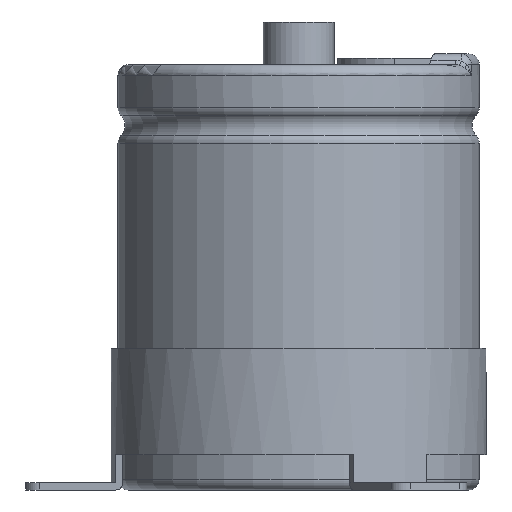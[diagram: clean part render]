
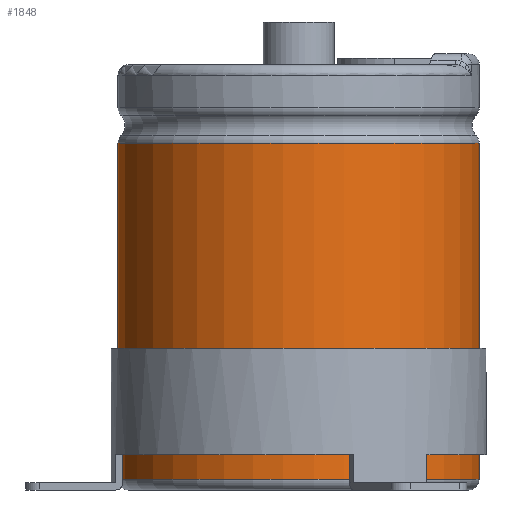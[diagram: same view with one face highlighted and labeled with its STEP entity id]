
A CAD part, front view. The second image highlights one B-rep face of the part: STEP entity #1848.
In plain terms, the highlighted cylindrical face has radius 25.5 mm (diameter 51 mm), a partial arc.
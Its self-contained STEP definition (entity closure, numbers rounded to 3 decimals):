
#370=LINE('',#9285,#608);
#371=LINE('',#9289,#609);
#608=VECTOR('',#6925,1.);
#609=VECTOR('',#6928,1.);
#1457=FACE_OUTER_BOUND('',#2362,.T.);
#1848=ADVANCED_FACE('',(#1457),#1998,.T.);
#1998=CYLINDRICAL_SURFACE('',#5769,25.5);
#2362=EDGE_LOOP('',(#3435,#3436,#3437,#3438));
#3435=ORIENTED_EDGE('',*,*,#4849,.T.);
#3436=ORIENTED_EDGE('',*,*,#4850,.T.);
#3437=ORIENTED_EDGE('',*,*,#4851,.F.);
#3438=ORIENTED_EDGE('',*,*,#4852,.F.);
#4222=VERTEX_POINT('',#9278);
#4224=VERTEX_POINT('',#9282);
#4225=VERTEX_POINT('',#9286);
#4226=VERTEX_POINT('',#9288);
#4849=EDGE_CURVE('',#4222,#4224,#5258,.T.);
#4850=EDGE_CURVE('',#4224,#4225,#370,.T.);
#4851=EDGE_CURVE('',#4226,#4225,#5259,.T.);
#4852=EDGE_CURVE('',#4222,#4226,#371,.T.);
#5258=CIRCLE('',#5766,25.5);
#5259=CIRCLE('',#5768,25.5);
#5766=AXIS2_PLACEMENT_3D('',#9283,#6921,#6922);
#5768=AXIS2_PLACEMENT_3D('',#9287,#6926,#6927);
#5769=AXIS2_PLACEMENT_3D('',#9290,#6929,#6930);
#6921=DIRECTION('',(0.,0.,-1.));
#6922=DIRECTION('',(0.,1.,0.));
#6925=DIRECTION('',(0.,0.,-1.));
#6926=DIRECTION('',(0.,0.,-1.));
#6927=DIRECTION('',(0.,1.,0.));
#6928=DIRECTION('',(0.,0.,-1.));
#6929=DIRECTION('',(0.,0.,-1.));
#6930=DIRECTION('',(0.,1.,0.));
#9278=CARTESIAN_POINT('',(3.989,25.186,48.9));
#9282=CARTESIAN_POINT('',(-3.989,25.186,48.9));
#9283=CARTESIAN_POINT('',(0.,0.,48.9));
#9285=CARTESIAN_POINT('',(-3.989,25.186,48.9));
#9286=CARTESIAN_POINT('',(-3.989,25.186,1.5));
#9287=CARTESIAN_POINT('',(0.,0.,1.5));
#9288=CARTESIAN_POINT('',(3.989,25.186,1.5));
#9289=CARTESIAN_POINT('',(3.989,25.186,48.9));
#9290=CARTESIAN_POINT('',(0.,0.,0.));
